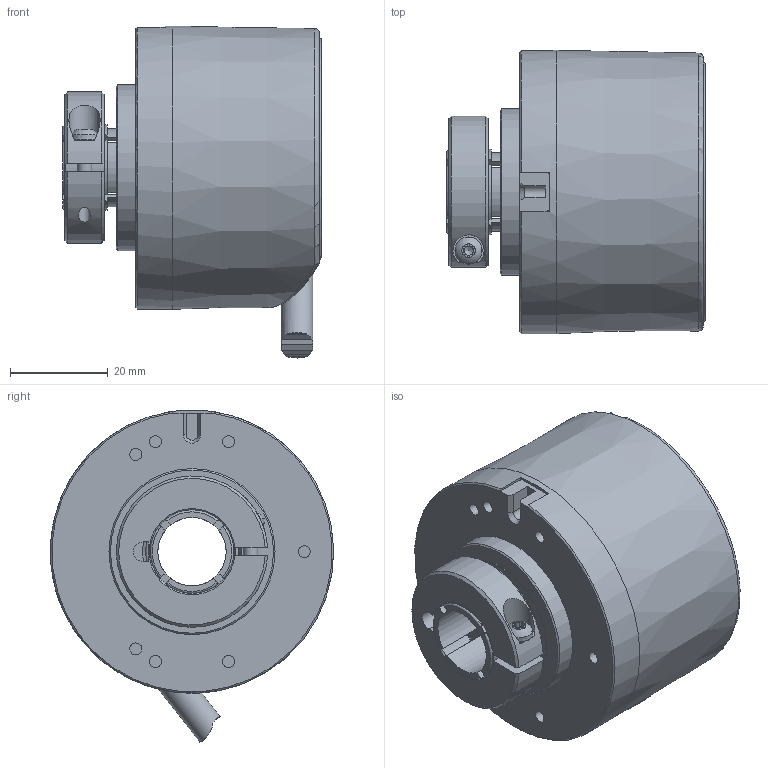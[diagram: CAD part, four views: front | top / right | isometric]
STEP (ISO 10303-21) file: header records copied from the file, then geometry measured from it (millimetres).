
FILE_DESCRIPTION( ( 'Unknown' ), '1' );
FILE_NAME( '//emea.baumernet.org/de05d/RD/caddy/k/GESAMT/EIL580/EIL580/3D/STEP/MarCom/EIL580-TP14.7Px.xxxxx.A.stp', 'Unknown', ( 'Unknown' ), ( 'Unknown' ), 'PSStep 19.0.9', 'Unknown', ' ' );
FILE_SCHEMA( ( 'AUTOMOTIVE_DESIGN { 1 0 10303 214 1 1 1 1 }' ) );
Length unit declared in the file: millimetre
Products named in the file (2): Assem1; 1_69
Assembly tree (1 placements, depth 2):
  Assem1
    1_69
Bounding box: 53 x 58 x 67.97 mm (x, y, z)
Volume: 95859.4 mm3; surface area: 22562.7 mm2
Topology: 1 solids, 7 shells, 343 faces, 832 edges, 528 vertices
Faces by surface type: plane 123, cylinder 104, cone 44, bspline 35, torus 26, sphere 7, revolution 4
Full cylindrical faces by diameter (mm): 2.46 x15, 2.998 x1, 3.2 x1, 4 x1, 5.5 x1, 6.5 x1, 6.97 x1, 7 x1, 7.7 x1, 8.5 x1, 14 x1, 14.1 x1, 16.8 x1, 16.95 x1, 18.262 x1, 18.704 x1, 19 x1, 19.312 x1, 20.262 x1, 20.704 x1, 21.927 x1, 22.558 x1, 23 x1, 23.904 x1, 24.927 x1, 25.2 x1, 25.558 x1, 26 x2, 34 x1, 58 x1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
Entity records: 15374 total; most frequent: CARTESIAN_POINT 5268, DIRECTION 1455, ORIENTED_EDGE 1450, EDGE_CURVE 725, AXIS2_PLACEMENT_3D 628, VERTEX_POINT 513, EDGE_LOOP 480, FACE_OUTER_BOUND 399
